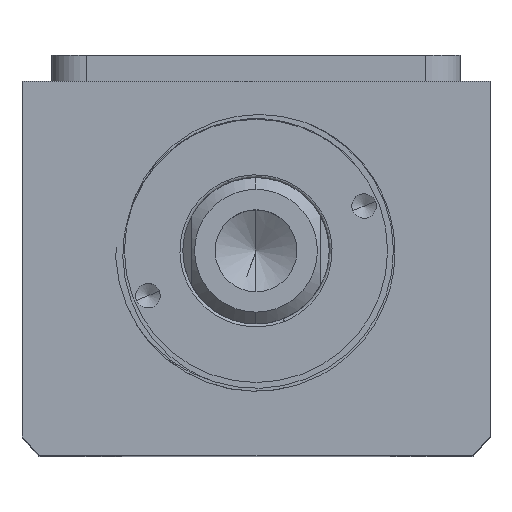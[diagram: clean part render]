
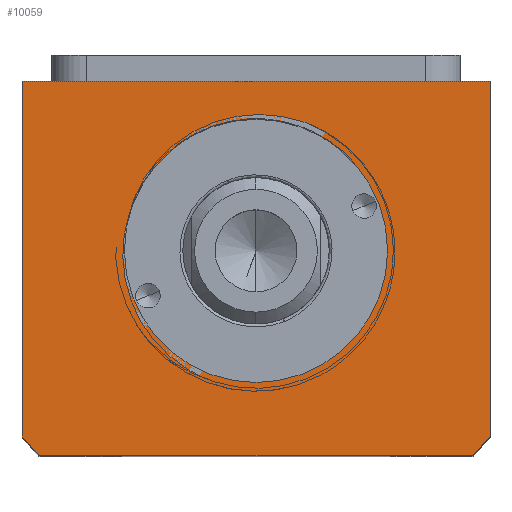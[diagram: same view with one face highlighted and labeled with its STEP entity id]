
A CAD part, top view. The second image highlights one B-rep face of the part: STEP entity #10059.
In plain terms, the highlighted planar face has unit normal (0, 0, 1).
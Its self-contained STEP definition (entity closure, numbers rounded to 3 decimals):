
#25 = DIRECTION ( 'NONE',  ( 0., 0., 1. ) ) ;
#405 = VERTEX_POINT ( 'NONE', #7969 ) ;
#446 = ORIENTED_EDGE ( 'NONE', *, *, #6535, .T. ) ;
#542 = CARTESIAN_POINT ( 'NONE',  ( 0., -40.507, 110. ) ) ;
#677 = CIRCLE ( 'NONE', #4086, 22.5 ) ;
#696 = ORIENTED_EDGE ( 'NONE', *, *, #6615, .T. ) ;
#939 = EDGE_CURVE ( 'NONE', #6751, #405, #677, .T. ) ;
#1122 = EDGE_CURVE ( 'NONE', #9621, #8937, #9733, .T. ) ;
#1205 = AXIS2_PLACEMENT_3D ( 'NONE', #9428, #4591, #10266 ) ;
#1235 = PLANE ( 'NONE',  #9062 ) ;
#1499 = VERTEX_POINT ( 'NONE', #5054 ) ;
#1740 = CARTESIAN_POINT ( 'NONE',  ( 37.094, -75.507, 110. ) ) ;
#1847 = ORIENTED_EDGE ( 'NONE', *, *, #8621, .T. ) ;
#1941 = LINE ( 'NONE', #2923, #6292 ) ;
#2179 = DIRECTION ( 'NONE',  ( 0., 0., 1. ) ) ;
#2345 = EDGE_CURVE ( 'NONE', #3490, #9621, #1941, .T. ) ;
#2440 = CARTESIAN_POINT ( 'NONE',  ( 0., -40.507, 110. ) ) ;
#2472 = DIRECTION ( 'NONE',  ( 1., 0., 0. ) ) ;
#2583 = CIRCLE ( 'NONE', #5340, 51. ) ;
#2906 = DIRECTION ( 'NONE',  ( 0., 0., 1. ) ) ;
#2923 = CARTESIAN_POINT ( 'NONE',  ( 40., -11.507, 110. ) ) ;
#2991 = FACE_BOUND ( 'NONE', #3218, .T. ) ;
#3149 = ORIENTED_EDGE ( 'NONE', *, *, #939, .F. ) ;
#3218 = EDGE_LOOP ( 'NONE', ( #10057, #3149 ) ) ;
#3283 = DIRECTION ( 'NONE',  ( 1., 0., 0. ) ) ;
#3286 = VECTOR ( 'NONE', #3300, 1000. ) ;
#3300 = DIRECTION ( 'NONE',  ( 1., 0., 0. ) ) ;
#3490 = VERTEX_POINT ( 'NONE', #3676 ) ;
#3572 = AXIS2_PLACEMENT_3D ( 'NONE', #4946, #25, #5766 ) ;
#3676 = CARTESIAN_POINT ( 'NONE',  ( 40., -72.145, 110. ) ) ;
#4039 = CIRCLE ( 'NONE', #3572, 51. ) ;
#4086 = AXIS2_PLACEMENT_3D ( 'NONE', #542, #2179, #2472 ) ;
#4272 = CARTESIAN_POINT ( 'NONE',  ( -22.5, -40.507, 110. ) ) ;
#4300 = VERTEX_POINT ( 'NONE', #9313 ) ;
#4310 = ORIENTED_EDGE ( 'NONE', *, *, #5423, .T. ) ;
#4546 = DIRECTION ( 'NONE',  ( 0., 1., 0. ) ) ;
#4574 = CIRCLE ( 'NONE', #1205, 22.5 ) ;
#4591 = DIRECTION ( 'NONE',  ( 0., 0., 1. ) ) ;
#4680 = ORIENTED_EDGE ( 'NONE', *, *, #2345, .T. ) ;
#4737 = DIRECTION ( 'NONE',  ( -1., 0., 0. ) ) ;
#4946 = CARTESIAN_POINT ( 'NONE',  ( 0., -40.507, 110. ) ) ;
#4967 = CARTESIAN_POINT ( 'NONE',  ( -40., -11.507, 110. ) ) ;
#5054 = CARTESIAN_POINT ( 'NONE',  ( -37.094, -75.507, 110. ) ) ;
#5108 = EDGE_CURVE ( 'NONE', #405, #6751, #4574, .T. ) ;
#5340 = AXIS2_PLACEMENT_3D ( 'NONE', #2440, #8119, #3283 ) ;
#5423 = EDGE_CURVE ( 'NONE', #1499, #10444, #5444, .T. ) ;
#5444 = LINE ( 'NONE', #8134, #3286 ) ;
#5766 = DIRECTION ( 'NONE',  ( 1., 0., 0. ) ) ;
#6292 = VECTOR ( 'NONE', #4546, 1000. ) ;
#6328 = ORIENTED_EDGE ( 'NONE', *, *, #1122, .T. ) ;
#6535 = EDGE_CURVE ( 'NONE', #4300, #1499, #4039, .T. ) ;
#6615 = EDGE_CURVE ( 'NONE', #8937, #4300, #9984, .T. ) ;
#6751 = VERTEX_POINT ( 'NONE', #4272 ) ;
#7501 = EDGE_LOOP ( 'NONE', ( #696, #446, #4310, #1847, #4680, #6328 ) ) ;
#7560 = VECTOR ( 'NONE', #4737, 1000. ) ;
#7812 = VECTOR ( 'NONE', #9792, 1000. ) ;
#7969 = CARTESIAN_POINT ( 'NONE',  ( 22.5, -40.507, 110. ) ) ;
#8076 = CARTESIAN_POINT ( 'NONE',  ( 40., -11.507, 110. ) ) ;
#8119 = DIRECTION ( 'NONE',  ( 0., 0., 1. ) ) ;
#8134 = CARTESIAN_POINT ( 'NONE',  ( -40., -75.507, 110. ) ) ;
#8171 = CARTESIAN_POINT ( 'NONE',  ( -40., -11.507, 110. ) ) ;
#8568 = DIRECTION ( 'NONE',  ( 1., 0., 0. ) ) ;
#8621 = EDGE_CURVE ( 'NONE', #10444, #3490, #2583, .T. ) ;
#8937 = VERTEX_POINT ( 'NONE', #4967 ) ;
#9062 = AXIS2_PLACEMENT_3D ( 'NONE', #10193, #2906, #8568 ) ;
#9209 = FACE_OUTER_BOUND ( 'NONE', #7501, .T. ) ;
#9313 = CARTESIAN_POINT ( 'NONE',  ( -40., -72.145, 110. ) ) ;
#9428 = CARTESIAN_POINT ( 'NONE',  ( 0., -40.507, 110. ) ) ;
#9621 = VERTEX_POINT ( 'NONE', #8076 ) ;
#9733 = LINE ( 'NONE', #10475, #7560 ) ;
#9792 = DIRECTION ( 'NONE',  ( 0., -1., 0. ) ) ;
#9984 = LINE ( 'NONE', #8171, #7812 ) ;
#10057 = ORIENTED_EDGE ( 'NONE', *, *, #5108, .F. ) ;
#10059 = ADVANCED_FACE ( 'NONE', ( #2991, #9209 ), #1235, .T. ) ;
#10193 = CARTESIAN_POINT ( 'NONE',  ( 0., 0., 110. ) ) ;
#10266 = DIRECTION ( 'NONE',  ( 1., 0., 0. ) ) ;
#10444 = VERTEX_POINT ( 'NONE', #1740 ) ;
#10475 = CARTESIAN_POINT ( 'NONE',  ( -40., -11.507, 110. ) ) ;
